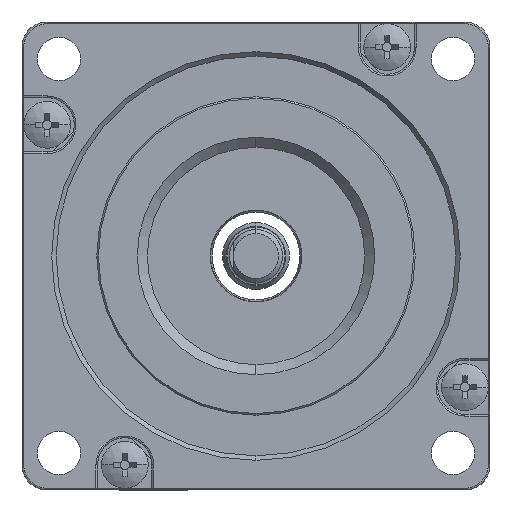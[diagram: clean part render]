
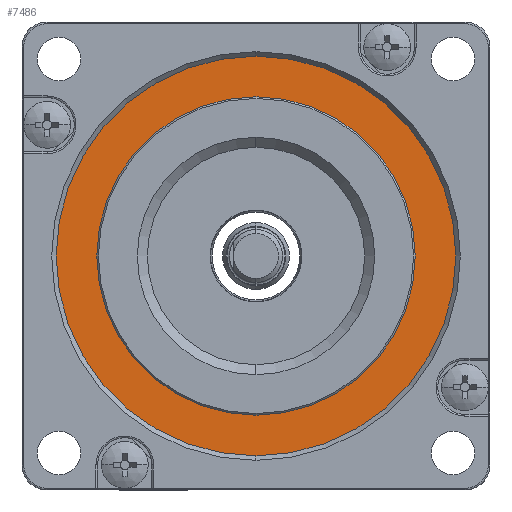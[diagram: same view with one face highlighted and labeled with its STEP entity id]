
A CAD part, left-side view. The second image highlights one B-rep face of the part: STEP entity #7486.
In plain terms, the highlighted planar face has unit normal (-1, 0, 0).
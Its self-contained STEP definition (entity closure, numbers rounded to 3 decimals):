
#143 = DIRECTION ( 'NONE',  ( 0., 0., 1. ) ) ;
#887 = ORIENTED_EDGE ( 'NONE', *, *, #10775, .F. ) ;
#1363 = CARTESIAN_POINT ( 'NONE',  ( 0.6, 0., -19.05 ) ) ;
#1627 = DIRECTION ( 'NONE',  ( 0., 0., 1. ) ) ;
#1853 = DIRECTION ( 'NONE',  ( -1., 0., 0. ) ) ;
#2196 = EDGE_CURVE ( 'NONE', #6442, #9391, #4829, .T. ) ;
#2487 = EDGE_CURVE ( 'NONE', #5742, #2556, #6471, .T. ) ;
#2556 = VERTEX_POINT ( 'NONE', #11508 ) ;
#2849 = ORIENTED_EDGE ( 'NONE', *, *, #2487, .T. ) ;
#2878 = CARTESIAN_POINT ( 'NONE',  ( 0.6, 0., 0. ) ) ;
#2992 = CIRCLE ( 'NONE', #11462, 23.91 ) ;
#3706 = CARTESIAN_POINT ( 'NONE',  ( 0.6, 19.05, 0. ) ) ;
#3871 = CARTESIAN_POINT ( 'NONE',  ( 0.6, 0., 23.91 ) ) ;
#4292 = AXIS2_PLACEMENT_3D ( 'NONE', #8717, #1853, #4851 ) ;
#4577 = CARTESIAN_POINT ( 'NONE',  ( 0.6, 0., 0. ) ) ;
#4829 = CIRCLE ( 'NONE', #6013, 19.05 ) ;
#4851 = DIRECTION ( 'NONE',  ( 0., 0., 1. ) ) ;
#5393 = ORIENTED_EDGE ( 'NONE', *, *, #2196, .F. ) ;
#5742 = VERTEX_POINT ( 'NONE', #3871 ) ;
#6013 = AXIS2_PLACEMENT_3D ( 'NONE', #4577, #9344, #1627 ) ;
#6040 = EDGE_CURVE ( 'NONE', #2556, #5742, #2992, .T. ) ;
#6307 = DIRECTION ( 'NONE',  ( -1., 0., 0. ) ) ;
#6309 = EDGE_LOOP ( 'NONE', ( #2849, #6648 ) ) ;
#6442 = VERTEX_POINT ( 'NONE', #8923 ) ;
#6471 = CIRCLE ( 'NONE', #4292, 23.91 ) ;
#6648 = ORIENTED_EDGE ( 'NONE', *, *, #6040, .T. ) ;
#7102 = EDGE_LOOP ( 'NONE', ( #887, #5393 ) ) ;
#7486 = ADVANCED_FACE ( 'NONE', ( #7635, #7645 ), #8529, .T. ) ;
#7635 = FACE_OUTER_BOUND ( 'NONE', #6309, .T. ) ;
#7645 = FACE_BOUND ( 'NONE', #7102, .T. ) ;
#8116 = DIRECTION ( 'NONE',  ( 0., 0., 1. ) ) ;
#8529 = PLANE ( 'NONE',  #10420 ) ;
#8717 = CARTESIAN_POINT ( 'NONE',  ( 0.6, 0., 0. ) ) ;
#8819 = CIRCLE ( 'NONE', #9756, 19.05 ) ;
#8923 = CARTESIAN_POINT ( 'NONE',  ( 0.6, 0., 19.05 ) ) ;
#9344 = DIRECTION ( 'NONE',  ( -1., 0., 0. ) ) ;
#9391 = VERTEX_POINT ( 'NONE', #1363 ) ;
#9736 = DIRECTION ( 'NONE',  ( -1., 0., 0. ) ) ;
#9756 = AXIS2_PLACEMENT_3D ( 'NONE', #2878, #9736, #143 ) ;
#10420 = AXIS2_PLACEMENT_3D ( 'NONE', #3706, #10513, #11488 ) ;
#10513 = DIRECTION ( 'NONE',  ( -1., 0., 0. ) ) ;
#10775 = EDGE_CURVE ( 'NONE', #9391, #6442, #8819, .T. ) ;
#11124 = CARTESIAN_POINT ( 'NONE',  ( 0.6, 0., 0. ) ) ;
#11462 = AXIS2_PLACEMENT_3D ( 'NONE', #11124, #6307, #8116 ) ;
#11488 = DIRECTION ( 'NONE',  ( 0., 0., 1. ) ) ;
#11508 = CARTESIAN_POINT ( 'NONE',  ( 0.6, 0., -23.91 ) ) ;
